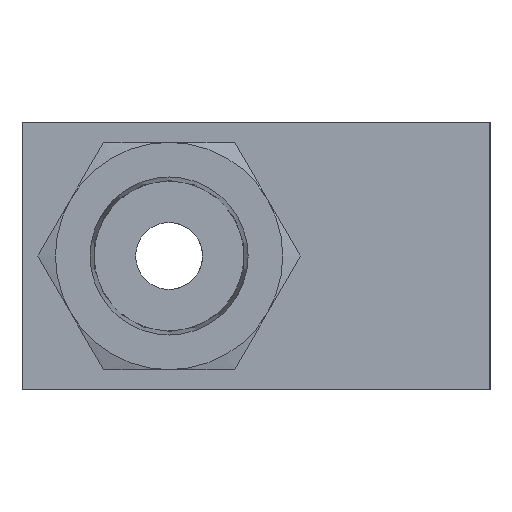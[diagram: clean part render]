
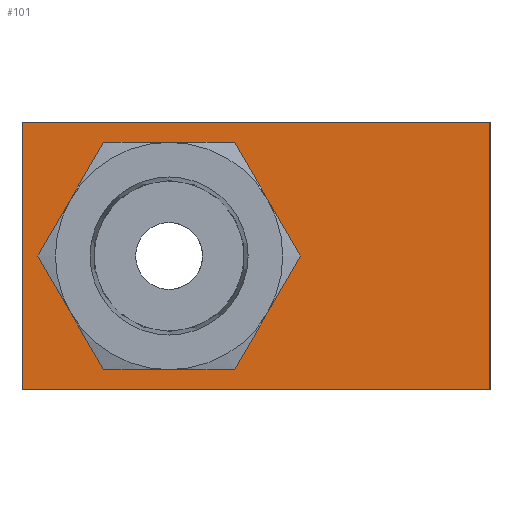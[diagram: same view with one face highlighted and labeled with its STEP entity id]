
A CAD part, left-side view. The second image highlights one B-rep face of the part: STEP entity #101.
In plain terms, the highlighted planar face has unit normal (-1, 0, 0).
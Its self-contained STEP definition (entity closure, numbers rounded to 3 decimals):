
#101=ADVANCED_FACE('',(#177,#178),#179,.F.);
#177=FACE_OUTER_BOUND('',#269,.T.);
#178=FACE_BOUND('',#270,.T.);
#179=PLANE('',#271);
#269=EDGE_LOOP('',(#471,#472,#473,#474));
#270=EDGE_LOOP('',(#475,#476,#477,#478,#479,#480));
#271=AXIS2_PLACEMENT_3D('',#481,#482,#483);
#471=ORIENTED_EDGE('',*,*,#604,.F.);
#472=ORIENTED_EDGE('',*,*,#585,.F.);
#473=ORIENTED_EDGE('',*,*,#605,.T.);
#474=ORIENTED_EDGE('',*,*,#606,.T.);
#475=ORIENTED_EDGE('',*,*,#559,.F.);
#476=ORIENTED_EDGE('',*,*,#565,.F.);
#477=ORIENTED_EDGE('',*,*,#566,.F.);
#478=ORIENTED_EDGE('',*,*,#551,.F.);
#479=ORIENTED_EDGE('',*,*,#603,.F.);
#480=ORIENTED_EDGE('',*,*,#573,.F.);
#481=CARTESIAN_POINT('',(0.,35.0,10.0));
#482=DIRECTION('',(1.0,0.0,0.0));
#483=DIRECTION('',(0.0,1.0,0.0));
#551=EDGE_CURVE('',#626,#621,#628,.T.);
#559=EDGE_CURVE('',#641,#636,#643,.T.);
#565=EDGE_CURVE('',#651,#641,#653,.T.);
#566=EDGE_CURVE('',#621,#651,#654,.T.);
#573=EDGE_CURVE('',#636,#660,#665,.T.);
#585=EDGE_CURVE('',#685,#687,#688,.T.);
#603=EDGE_CURVE('',#660,#626,#715,.T.);
#604=EDGE_CURVE('',#687,#716,#717,.T.);
#605=EDGE_CURVE('',#685,#718,#719,.T.);
#606=EDGE_CURVE('',#718,#716,#720,.T.);
#621=VERTEX_POINT('',#744);
#626=VERTEX_POINT('',#754);
#628=CIRCLE('',#760,8.5);
#636=VERTEX_POINT('',#773);
#641=VERTEX_POINT('',#783);
#643=CIRCLE('',#787,8.5);
#651=VERTEX_POINT('',#806);
#653=CIRCLE('',#810,8.5);
#654=CIRCLE('',#811,8.5);
#660=VERTEX_POINT('',#823);
#665=CIRCLE('',#833,8.5);
#685=VERTEX_POINT('',#855);
#687=VERTEX_POINT('',#858);
#688=LINE('',#859,#860);
#715=CIRCLE('',#899,8.5);
#716=VERTEX_POINT('',#900);
#717=LINE('',#901,#902);
#718=VERTEX_POINT('',#903);
#719=LINE('',#904,#905);
#720=LINE('',#906,#907);
#744=CARTESIAN_POINT('',(0.,16.639,-4.25));
#754=CARTESIAN_POINT('',(0.,24.0,-8.5));
#760=AXIS2_PLACEMENT_3D('',#926,#927,#928);
#773=CARTESIAN_POINT('',(0.,31.361,4.25));
#783=CARTESIAN_POINT('',(0.,24.0,8.5));
#787=AXIS2_PLACEMENT_3D('',#931,#932,#933);
#806=CARTESIAN_POINT('',(0.,16.639,4.25));
#810=AXIS2_PLACEMENT_3D('',#935,#936,#937);
#811=AXIS2_PLACEMENT_3D('',#938,#939,#940);
#823=CARTESIAN_POINT('',(0.,31.361,-4.25));
#833=AXIS2_PLACEMENT_3D('',#942,#943,#944);
#855=CARTESIAN_POINT('',(0.,35.0,10.0));
#858=CARTESIAN_POINT('',(0.,0.0,10.0));
#859=CARTESIAN_POINT('',(0.,35.0,10.0));
#860=VECTOR('',#973,1.0);
#899=AXIS2_PLACEMENT_3D('',#1009,#1010,#1011);
#900=CARTESIAN_POINT('',(0.,0.0,-10.0));
#901=CARTESIAN_POINT('',(0.,0.0,10.0));
#902=VECTOR('',#1012,1.0);
#903=CARTESIAN_POINT('',(0.,35.0,-10.0));
#904=CARTESIAN_POINT('',(0.,35.0,10.0));
#905=VECTOR('',#1013,1.0);
#906=CARTESIAN_POINT('',(0.,35.0,-10.0));
#907=VECTOR('',#1014,1.0);
#926=CARTESIAN_POINT('',(0.,24.0,0.0));
#927=DIRECTION('',(-1.0,0.0,0.0));
#928=DIRECTION('',(0.0,0.0,-1.0));
#931=CARTESIAN_POINT('',(0.,24.0,0.0));
#932=DIRECTION('',(-1.0,0.0,0.0));
#933=DIRECTION('',(0.0,0.0,-1.0));
#935=CARTESIAN_POINT('',(0.,24.0,0.0));
#936=DIRECTION('',(-1.0,0.0,0.0));
#937=DIRECTION('',(0.0,0.0,-1.0));
#938=CARTESIAN_POINT('',(0.,24.0,0.0));
#939=DIRECTION('',(-1.0,0.0,0.0));
#940=DIRECTION('',(0.0,0.0,-1.0));
#942=CARTESIAN_POINT('',(0.,24.0,0.0));
#943=DIRECTION('',(-1.0,0.0,0.0));
#944=DIRECTION('',(0.0,0.0,-1.0));
#973=DIRECTION('',(0.0,-1.0,0.0));
#1009=CARTESIAN_POINT('',(0.,24.0,0.0));
#1010=DIRECTION('',(-1.0,0.0,0.0));
#1011=DIRECTION('',(0.0,0.0,-1.0));
#1012=DIRECTION('',(0.0,0.0,-1.0));
#1013=DIRECTION('',(0.0,0.0,-1.0));
#1014=DIRECTION('',(0.0,-1.0,0.0));
